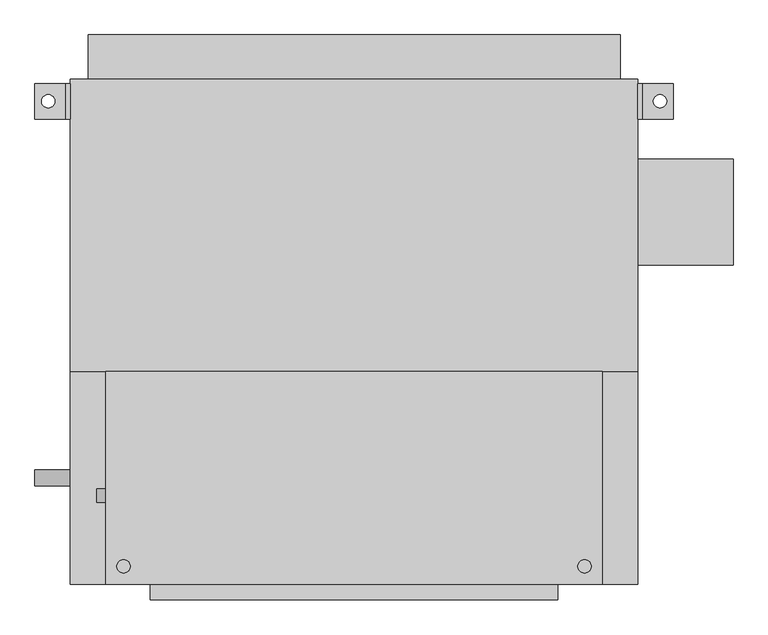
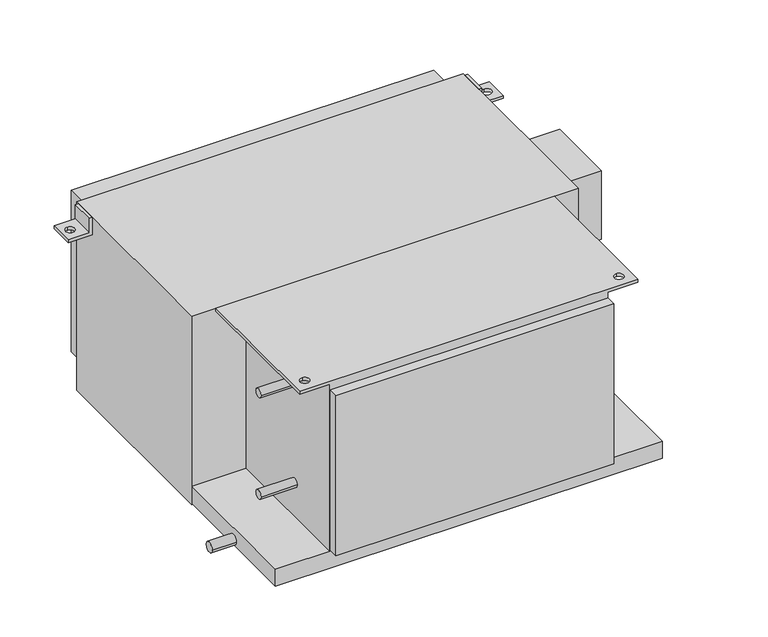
"""IFC4 building model written with IfcOpenShell, lengths in millimetres: proxy geometry, Concealed_High_Capacity_Horizontal_Fan_Coil_Unit_With_Plenum_-_42DCA_-_CARRIER_-_2-Pipe_Cool-EHeat_LH_2022 : Size 10 - 277v/60Hz/1Ph - 6 Row 7.0kW."""

from ifc_helpers import new_model, si_unit, point, frame, frame_2d, origin, place, context, project, spatial, polyline, circle_curve, trimmed, segment, composite_curve, outline, extrude, source, transform, mapped, element, save
from ifc_brep_helpers import plane_surface, revolved_surface, advanced_brep


def mechanical_equipment_6f01a199(model_context):
    return source(origin(), model_context, "Body", "SolidModel", [
        advanced_brep(
        [(-254.0, 327.025, -38.1), (-304.8, 327.025, -38.1), (-304.8, 327.025, -31.75), (-260.35, 327.025, -31.75), (-260.35, 327.025, 0.0), (-254.0, 327.025, 0.0), (-254.0, 276.225, -38.1), (-254.0, 276.225, 0.0), (-260.35, 276.225, 0.0), (-260.35, 276.225, -31.75), (-304.8, 276.225, -31.75), (-304.8, 276.225, -38.1), (-285.75, 292.1, -38.1), (-285.75, 311.15, -38.1), (-285.75, 311.15, -31.75), (-285.75, 292.1, -31.75)],
        [
            (0, 1),
            (1, 2),
            (2, 3),
            (3, 4),
            (4, 5),
            (5, 0),
            (6, 7),
            (7, 8),
            (8, 9),
            (9, 10),
            (10, 11),
            (11, 6),
            (0, 6),
            (11, 1),
            (12, 13, circle_curve(frame((-285.75, 301.625, -38.1), z_axis=(0.0, 0.0, 1.0), x_axis=(0.0, -1.0, 0.0)), 9.525)),
            (13, 12, circle_curve(frame((-285.75, 301.625, -38.1), z_axis=(0.0, 0.0, 1.0), x_axis=(0.0, -1.0, 0.0)), 9.525)),
            (10, 2),
            (9, 3),
            (14, 15, circle_curve(frame((-285.75, 301.625, -31.75), z_axis=(0.0, 0.0, -1.0), x_axis=(0.0, -1.0, 0.0)), 9.525)),
            (15, 14, circle_curve(frame((-285.75, 301.625, -31.75), z_axis=(0.0, 0.0, -1.0), x_axis=(0.0, -1.0, 0.0)), 9.525)),
            (8, 4),
            (7, 5),
            (14, 13),
            (12, 15),
        ],
        [
            plane_surface(frame((-254.0, 327.025, -38.1), z_axis=(0.0, 1.0, 0.0), x_axis=(-1.0, 0.0, 0.0))),
            plane_surface(frame((-254.0, 276.225, -38.1), z_axis=(0.0, -1.0, 0.0), x_axis=(1.0, 0.0, 0.0))),
            plane_surface(frame((-254.0, 327.025, -38.1), z_axis=(0.0, 0.0, -1.0), x_axis=(0.0, -1.0, 0.0))),
            plane_surface(frame((-304.8, 327.025, -38.1), z_axis=(-1.0, 0.0, 0.0), x_axis=(0.0, -1.0, 0.0))),
            plane_surface(frame((-304.8, 327.025, -31.75), z_axis=(0.0, 0.0, 1.0), x_axis=(0.0, -1.0, 0.0))),
            plane_surface(frame((-260.35, 327.025, -31.75), z_axis=(-1.0, 0.0, 0.0), x_axis=(0.0, -1.0, 0.0))),
            plane_surface(frame((-260.35, 327.025, 0.0), z_axis=(0.0, 0.0, 1.0), x_axis=(0.0, -1.0, 0.0))),
            plane_surface(frame((-254.0, 327.025, 0.0), z_axis=(1.0, 0.0, 0.0), x_axis=(0.0, -1.0, 0.0))),
            revolved_surface(polyline([(-285.75, 292.1, -38.1), (-285.75, 292.1, -31.75)]), (-285.75, 301.625, -31.75), (0.0, 0.0, -1.0)),
        ],
        [
            (0, [[1, 2, 3, 4, 5, 6]]),
            (1, [[7, 8, 9, 10, 11, 12]]),
            (2, [[-1, 13, -12, 14], [15, 16]]),
            (3, [[-2, -14, -11, 17]]),
            (4, [[-3, -17, -10, 18], [19, 20]]),
            (5, [[-4, -18, -9, 21]]),
            (6, [[-5, -21, -8, 22]]),
            (7, [[-6, -22, -7, -13]]),
            (8, [[23, -15, 24, -19]]),
            (8, [[-23, -20, -24, -16]]),
        ],
    ),
        advanced_brep(
        [(558.8, 327.025, -38.1), (558.8, 327.025, 0.0), (565.15, 327.025, 0.0), (565.15, 327.025, -31.75), (609.6, 327.025, -31.75), (609.6, 327.025, -38.1), (558.8, 276.225, -38.1), (609.6, 276.225, -38.1), (609.6, 276.225, -31.75), (565.15, 276.225, -31.75), (565.15, 276.225, 0.0), (558.8, 276.225, 0.0), (590.55, 311.15, -31.75), (590.55, 292.1, -31.75), (590.55, 292.1, -38.1), (590.55, 311.15, -38.1)],
        [
            (0, 1),
            (1, 2),
            (2, 3),
            (3, 4),
            (4, 5),
            (5, 0),
            (6, 7),
            (7, 8),
            (8, 9),
            (9, 10),
            (10, 11),
            (11, 6),
            (0, 6),
            (11, 1),
            (10, 2),
            (9, 3),
            (8, 4),
            (12, 13, circle_curve(frame((590.55, 301.625, -31.75), z_axis=(0.0, 0.0, -1.0), x_axis=(0.0, -1.0, 0.0)), 9.525)),
            (13, 12, circle_curve(frame((590.55, 301.625, -31.75), z_axis=(0.0, 0.0, -1.0), x_axis=(0.0, -1.0, 0.0)), 9.525)),
            (7, 5),
            (14, 15, circle_curve(frame((590.55, 301.625, -38.1), z_axis=(0.0, 0.0, 1.0), x_axis=(0.0, -1.0, 0.0)), 9.525)),
            (15, 14, circle_curve(frame((590.55, 301.625, -38.1), z_axis=(0.0, 0.0, 1.0), x_axis=(0.0, -1.0, 0.0)), 9.525)),
            (12, 15),
            (14, 13),
        ],
        [
            plane_surface(frame((-254.0, 327.025, -38.1), z_axis=(0.0, 1.0, 0.0), x_axis=(-1.0, 0.0, 0.0))),
            plane_surface(frame((-254.0, 276.225, -38.1), z_axis=(0.0, -1.0, 0.0), x_axis=(1.0, 0.0, 0.0))),
            plane_surface(frame((558.8, 327.025, -38.1), z_axis=(-1.0, 0.0, 0.0), x_axis=(0.0, -1.0, 0.0))),
            plane_surface(frame((558.8, 327.025, 0.0), z_axis=(0.0, 0.0, 1.0), x_axis=(0.0, -1.0, 0.0))),
            plane_surface(frame((565.15, 327.025, 0.0), z_axis=(1.0, 0.0, 0.0), x_axis=(0.0, -1.0, 0.0))),
            plane_surface(frame((565.15, 327.025, -31.75), z_axis=(0.0, 0.0, 1.0), x_axis=(0.0, -1.0, 0.0))),
            plane_surface(frame((609.6, 327.025, -31.75), z_axis=(1.0, 0.0, 0.0), x_axis=(0.0, -1.0, 0.0))),
            plane_surface(frame((609.6, 327.025, -38.1), z_axis=(0.0, 0.0, -1.0), x_axis=(0.0, -1.0, 0.0))),
            revolved_surface(polyline([(590.55, 292.1, -38.1), (590.55, 292.1, -31.75)]), (590.55, 301.625, -31.75), (0.0, 0.0, -1.0)),
        ],
        [
            (0, [[1, 2, 3, 4, 5, 6]]),
            (1, [[7, 8, 9, 10, 11, 12]]),
            (2, [[-1, 13, -12, 14]]),
            (3, [[-2, -14, -11, 15]]),
            (4, [[-3, -15, -10, 16]]),
            (5, [[-4, -16, -9, 17], [18, 19]]),
            (6, [[-5, -17, -8, 20]]),
            (7, [[-6, -20, -7, -13], [21, 22]]),
            (8, [[23, -21, 24, -18]]),
            (8, [[-23, -19, -24, -22]]),
        ],
    ),
        advanced_brep(
        [(-203.2, -85.725, -6.35), (-139.7, -85.725, -6.35), (-139.7, -390.525, -6.35), (-203.2, -390.525, -6.35), (-177.8, -355.6, -6.35), (-177.8, -374.65, -6.35), (508.0, -85.725, -6.35), (508.0, -390.525, -6.35), (444.5, -390.525, -6.35), (444.5, -85.725, -6.35), (482.6, -355.6, -6.35), (482.6, -374.65, -6.35), (-203.2, -85.725, 0.0), (-203.2, -390.525, 0.0), (508.0, -390.525, 0.0), (508.0, -85.725, 0.0), (-177.8, -374.65, 0.0), (-177.8, -355.6, 0.0), (482.6, -374.65, 0.0), (482.6, -355.6, 0.0), (-139.7, -390.525, -377.825), (444.5, -390.525, -377.825), (444.5, -85.725, -377.825), (-139.7, -85.725, -377.825)],
        [
            (0, 1),
            (1, 2),
            (2, 3),
            (3, 0),
            (4, 5, circle_curve(frame((-177.8, -365.125, -6.35), z_axis=(0.0, 0.0, 1.0), x_axis=(0.0, 1.0, 0.0)), 9.525)),
            (5, 4, circle_curve(frame((-177.8, -365.125, -6.35), z_axis=(0.0, 0.0, 1.0), x_axis=(0.0, 1.0, 0.0)), 9.525)),
            (6, 7),
            (7, 8),
            (8, 9),
            (9, 6),
            (10, 11, circle_curve(frame((482.6, -365.125, -6.35), z_axis=(0.0, 0.0, 1.0), x_axis=(0.0, 1.0, 0.0)), 9.525)),
            (11, 10, circle_curve(frame((482.6, -365.125, -6.35), z_axis=(0.0, 0.0, 1.0), x_axis=(0.0, 1.0, 0.0)), 9.525)),
            (12, 13),
            (13, 14),
            (14, 15),
            (15, 12),
            (16, 17, circle_curve(frame((-177.8, -365.125, 0.0), z_axis=(0.0, 0.0, -1.0), x_axis=(0.0, 1.0, 0.0)), 9.525)),
            (17, 16, circle_curve(frame((-177.8, -365.125, 0.0), z_axis=(0.0, 0.0, -1.0), x_axis=(0.0, 1.0, 0.0)), 9.525)),
            (18, 19, circle_curve(frame((482.6, -365.125, 0.0), z_axis=(0.0, 0.0, -1.0), x_axis=(0.0, 1.0, 0.0)), 9.525)),
            (19, 18, circle_curve(frame((482.6, -365.125, 0.0), z_axis=(0.0, 0.0, -1.0), x_axis=(0.0, 1.0, 0.0)), 9.525)),
            (3, 13),
            (12, 0),
            (2, 20),
            (20, 21),
            (21, 8),
            (7, 14),
            (15, 6),
            (9, 22),
            (22, 23),
            (23, 1),
            (22, 21),
            (20, 23),
            (16, 5),
            (4, 17),
            (18, 11),
            (10, 19),
        ],
        [
            plane_surface(frame((-203.2, -85.725, -6.35), z_axis=(0.0, 0.0, -1.0), x_axis=(0.0, 1.0, 0.0))),
            plane_surface(frame((-203.2, -85.725, 0.0), z_axis=(0.0, 0.0, 1.0), x_axis=(0.0, -1.0, 0.0))),
            plane_surface(frame((-203.2, -85.725, 0.0), z_axis=(-1.0, 0.0, 0.0), x_axis=(0.0, 0.0, -1.0))),
            plane_surface(frame((-203.2, -390.525, 0.0), z_axis=(0.0, -1.0, 0.0), x_axis=(0.0, 0.0, -1.0))),
            plane_surface(frame((-139.7, -85.725, 0.0), z_axis=(0.0, 1.0, 0.0), x_axis=(0.0, 0.0, -1.0))),
            plane_surface(frame((508.0, -390.525, 0.0), z_axis=(1.0, 0.0, 0.0), x_axis=(0.0, 0.0, -1.0))),
            plane_surface(frame((-139.7, -85.725, -377.825), z_axis=(0.0, 0.0, -1.0), x_axis=(1.0, 0.0, 0.0))),
            plane_surface(frame((-139.7, -85.725, 0.0), z_axis=(-1.0, 0.0, 0.0), x_axis=(0.0, 0.0, -1.0))),
            plane_surface(frame((444.5, -390.525, 0.0), z_axis=(1.0, 0.0, 0.0), x_axis=(0.0, 0.0, -1.0))),
            revolved_surface(polyline([(-177.8, -355.6, -6.35), (-177.8, -355.6, 0.0)]), (-177.8, -365.125, 0.0), (0.0, 0.0, -1.0)),
            revolved_surface(polyline([(482.6, -355.6, -6.35), (482.6, -355.6, 0.0)]), (482.6, -365.125, 0.0), (0.0, 0.0, -1.0)),
        ],
        [
            (0, [[1, 2, 3, 4], [5, 6]]),
            (0, [[7, 8, 9, 10], [11, 12]]),
            (1, [[13, 14, 15, 16], [17, 18], [19, 20]]),
            (2, [[-4, 21, -13, 22]]),
            (3, [[-3, 23, 24, 25, -8, 26, -14, -21]]),
            (4, [[-1, -22, -16, 27, -10, 28, 29, 30]]),
            (5, [[-7, -27, -15, -26]]),
            (6, [[31, -24, 32, -29]]),
            (7, [[-32, -23, -2, -30]]),
            (8, [[-31, -28, -9, -25]]),
            (9, [[33, -5, 34, -17]]),
            (9, [[-33, -18, -34, -6]]),
            (10, [[35, -11, 36, -19]]),
            (10, [[-35, -20, -36, -12]]),
        ],
    ),
        extrude(outline(polyline([(-228.6, 396.875), (533.4, 396.875), (533.4, 333.375), (-228.6, 333.375), (-228.6, 396.875)])), frame((0.0, 0.0, -381.0), z_axis=(0.0, 0.0, 1.0), x_axis=(1.0, 0.0, 0.0)), (0.0, 0.0, 1.0), 358.775),
        extrude(outline(composite_curve([segment(trimmed(circle_curve(frame_2d((-263.525, -76.2)), 9.525), [point((-273.05, -76.2))], [point((-254.0, -76.2))], False, "CARTESIAN"), True, "CONTINUOUS"), segment(trimmed(circle_curve(frame_2d((-263.525, -76.2)), 9.525), [point((-254.0, -76.2))], [point((-273.05, -76.2))], False, "CARTESIAN"), True, "CONTINUOUS")], self_intersect=False)), frame((-215.9, 0.0, 0.0), z_axis=(1.0, 0.0, 0.0), x_axis=(0.0, 1.0, 0.0)), (0.0, 0.0, 1.0), 76.2),
        extrude(outline(composite_curve([segment(trimmed(circle_curve(frame_2d((-263.525, -301.625)), 9.525), [point((-273.05, -301.625))], [point((-254.0, -301.625))], False, "CARTESIAN"), True, "CONTINUOUS"), segment(trimmed(circle_curve(frame_2d((-263.525, -301.625)), 9.525), [point((-254.0, -301.625))], [point((-273.05, -301.625))], False, "CARTESIAN"), True, "CONTINUOUS")], self_intersect=False)), frame((-215.9, 0.0, 0.0), z_axis=(1.0, 0.0, 0.0), x_axis=(0.0, 1.0, 0.0)), (0.0, 0.0, 1.0), 76.2),
        extrude(outline(composite_curve([segment(trimmed(circle_curve(frame_2d((-238.125, -403.225)), 11.1125), [point((-249.2375, -403.225))], [point((-227.0125, -403.225))], False, "CARTESIAN"), True, "CONTINUOUS"), segment(trimmed(circle_curve(frame_2d((-238.125, -403.225)), 11.1125), [point((-227.0125, -403.225))], [point((-249.2375, -403.225))], False, "CARTESIAN"), True, "CONTINUOUS")], self_intersect=False)), frame((-304.8, 0.0, 0.0), z_axis=(1.0, 0.0, 0.0), x_axis=(0.0, 1.0, 0.0)), (0.0, 0.0, 1.0), 50.8),
        extrude(outline(polyline([(695.325, 219.075), (695.325, 66.675), (558.8, 66.675), (558.8, 219.075), (695.325, 219.075)])), frame((0.0, 0.0, -254.0), z_axis=(0.0, 0.0, 1.0), x_axis=(1.0, 0.0, 0.0)), (0.0, 0.0, 1.0), 152.4),
        extrude(outline(polyline([(444.5, -412.75), (-139.7, -412.75), (-139.7, -390.525), (444.5, -390.525), (444.5, -412.75)])), frame((0.0, 0.0, -374.65), z_axis=(0.0, 0.0, 1.0), x_axis=(1.0, 0.0, 0.0)), (0.0, 0.0, 1.0), 355.6),
        extrude(outline(polyline([(558.8, -85.725), (-254.0, -85.725), (-254.0, 333.375), (558.8, 333.375), (558.8, -85.725)])), frame((0.0, 0.0, -419.1), z_axis=(0.0, 0.0, 1.0), x_axis=(1.0, 0.0, 0.0)), (0.0, 0.0, 1.0), 419.1),
        extrude(outline(polyline([(558.8, -85.725), (558.8, -390.525), (-254.0, -390.525), (-254.0, -85.725), (558.8, -85.725)])), frame((0.0, 0.0, -415.925), z_axis=(0.0, 0.0, 1.0), x_axis=(1.0, 0.0, 0.0)), (0.0, 0.0, 1.0), 38.1),
    ])


if __name__ == "__main__":
    model = new_model("IFC4")
    model_context = context("Model", 3, world=origin())
    ifc_project = project(units=[si_unit("LENGTHUNIT", "METRE", prefix="MILLI")], contexts=[model_context])
    site = spatial("IfcSite", under=ifc_project)
    building = spatial("IfcBuilding", under=site)
    placement = place(None, origin())
    mechanical_equipment_shape = mechanical_equipment_6f01a199(model_context)
    element("IfcBuildingElementProxy", 1, Name="Concealed_High_Capacity_Horizontal_Fan_Coil_Unit_With_Plenum_-_42DCA_-_CARRIER_-_2-Pipe_Cool-EHeat_LH_2022 : Size 10 - 277v/60Hz/1Ph - 6 Row 7.0kW", ObjectType="Concealed_High_Capacity_Horizontal_Fan_Coil_Unit_With_Plenum_-_42DCA_-_CARRIER_-_2-Pipe_Cool-EHeat_LH_2022 : Size 10 - 277v/60Hz/1Ph - 6 Row 7.0kW", at=placement, inside=building, context=model_context, shape_type="MappedRepresentation", body=[
        mapped(mechanical_equipment_shape, transform((0.0, 0.0, 0.0), x_axis=(1.0, 0.0, 0.0), y_axis=(0.0, 1.0, 0.0), z_axis=(0.0, 0.0, 1.0))),
    ])
    save(model, "model.ifc")
